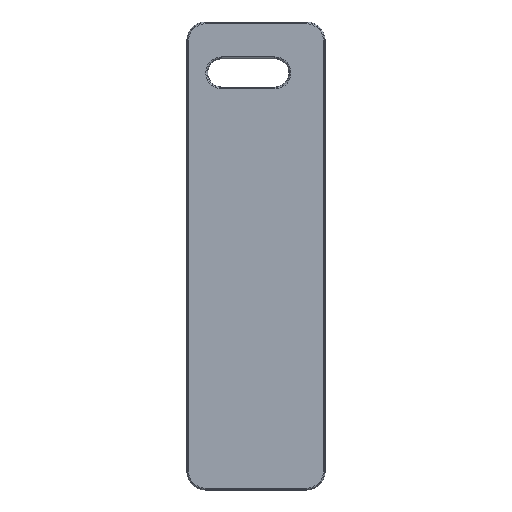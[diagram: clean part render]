
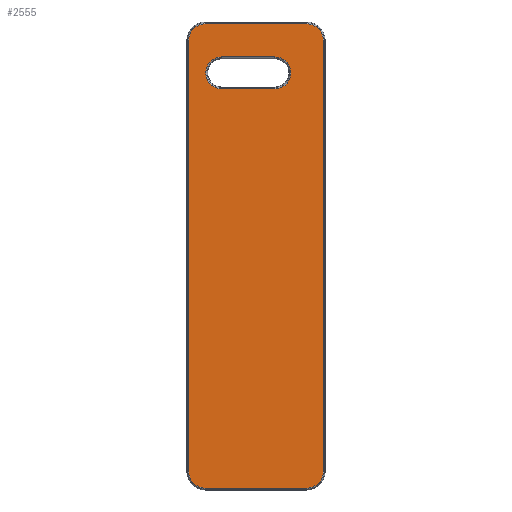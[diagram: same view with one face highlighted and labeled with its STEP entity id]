
A CAD part, top view. The second image highlights one B-rep face of the part: STEP entity #2555.
In plain terms, the highlighted planar face has unit normal (0, 0, 1).
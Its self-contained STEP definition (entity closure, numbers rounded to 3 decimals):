
#170=CARTESIAN_POINT('',(-191.,-812.5,0.));
#171=DIRECTION('',(0.,0.,1.));
#172=DIRECTION('',(-1.,0.,0.));
#173=AXIS2_PLACEMENT_3D('',#170,#171,#172);
#178=DIRECTION('',(0.,-1.,0.));
#179=VECTOR('',#178,1625.);
#180=CARTESIAN_POINT('',(-253.525,812.5,0.));
#181=LINE('',#180,#179);
#185=CARTESIAN_POINT('',(-191.,812.5,0.));
#186=DIRECTION('',(0.,0.,1.));
#187=DIRECTION('',(0.,1.,0.));
#188=AXIS2_PLACEMENT_3D('',#185,#186,#187);
#193=DIRECTION('',(-1.,0.,0.));
#194=VECTOR('',#193,382.);
#195=CARTESIAN_POINT('',(191.,875.025,0.));
#196=LINE('',#195,#194);
#200=CARTESIAN_POINT('',(191.,812.5,0.));
#201=DIRECTION('',(0.,0.,1.));
#202=DIRECTION('',(1.,0.,0.));
#203=AXIS2_PLACEMENT_3D('',#200,#201,#202);
#208=DIRECTION('',(0.,1.,0.));
#209=VECTOR('',#208,1625.);
#210=CARTESIAN_POINT('',(253.525,-812.5,0.));
#211=LINE('',#210,#209);
#215=CARTESIAN_POINT('',(191.,-812.5,0.));
#216=DIRECTION('',(0.,0.,1.));
#217=DIRECTION('',(0.,-1.,0.));
#218=AXIS2_PLACEMENT_3D('',#215,#216,#217);
#223=DIRECTION('',(1.,0.,0.));
#224=VECTOR('',#223,382.);
#225=CARTESIAN_POINT('',(-191.,-875.025,0.));
#226=LINE('',#225,#224);
#230=CARTESIAN_POINT('',(71.,690.005,0.));
#231=DIRECTION('',(0.,0.,-1.));
#232=DIRECTION('',(0.,1.,0.));
#233=AXIS2_PLACEMENT_3D('',#230,#231,#232);
#238=DIRECTION('',(1.,0.,0.));
#239=VECTOR('',#238,200.);
#240=CARTESIAN_POINT('',(-129.,750.115,0.));
#241=LINE('',#240,#239);
#245=CARTESIAN_POINT('',(-129.,690.005,0.));
#246=DIRECTION('',(0.,0.,-1.));
#247=DIRECTION('',(0.,-1.,0.));
#248=AXIS2_PLACEMENT_3D('',#245,#246,#247);
#253=DIRECTION('',(-1.,0.,0.));
#254=VECTOR('',#253,200.);
#255=CARTESIAN_POINT('',(71.,629.895,0.));
#256=LINE('',#255,#254);
#2306=CARTESIAN_POINT('',(-253.525,-812.5,0.));
#2307=CARTESIAN_POINT('',(-191.,-875.025,0.));
#2308=VERTEX_POINT('',#2306);
#2309=VERTEX_POINT('',#2307);
#2314=CARTESIAN_POINT('',(191.,-875.025,0.));
#2315=VERTEX_POINT('',#2314);
#2318=CARTESIAN_POINT('',(253.525,-812.5,0.));
#2319=VERTEX_POINT('',#2318);
#2322=CARTESIAN_POINT('',(253.525,812.5,0.));
#2323=VERTEX_POINT('',#2322);
#2326=CARTESIAN_POINT('',(191.,875.025,0.));
#2327=VERTEX_POINT('',#2326);
#2330=CARTESIAN_POINT('',(-191.,875.025,0.));
#2331=VERTEX_POINT('',#2330);
#2334=CARTESIAN_POINT('',(-253.525,812.5,0.));
#2335=VERTEX_POINT('',#2334);
#2338=CARTESIAN_POINT('',(71.,750.115,0.));
#2339=CARTESIAN_POINT('',(71.,629.895,0.));
#2340=VERTEX_POINT('',#2338);
#2341=VERTEX_POINT('',#2339);
#2346=CARTESIAN_POINT('',(-129.,629.895,0.));
#2347=VERTEX_POINT('',#2346);
#2350=CARTESIAN_POINT('',(-129.,750.115,0.));
#2351=VERTEX_POINT('',#2350);
#2522=CARTESIAN_POINT('',(0.,0.,0.));
#2523=DIRECTION('',(0.,0.,1.));
#2524=DIRECTION('',(1.,0.,0.));
#2525=AXIS2_PLACEMENT_3D('',#2522,#2523,#2524);
#2526=PLANE('',#2525);
#2528=ORIENTED_EDGE('',*,*,#2527,.F.);
#2530=ORIENTED_EDGE('',*,*,#2529,.F.);
#2532=ORIENTED_EDGE('',*,*,#2531,.F.);
#2534=ORIENTED_EDGE('',*,*,#2533,.F.);
#2536=ORIENTED_EDGE('',*,*,#2535,.F.);
#2538=ORIENTED_EDGE('',*,*,#2537,.F.);
#2540=ORIENTED_EDGE('',*,*,#2539,.F.);
#2542=ORIENTED_EDGE('',*,*,#2541,.F.);
#2543=EDGE_LOOP('',(#2528,#2530,#2532,#2534,#2536,#2538,#2540,#2542));
#2544=FACE_OUTER_BOUND('',#2543,.F.);
#2546=ORIENTED_EDGE('',*,*,#2545,.F.);
#2548=ORIENTED_EDGE('',*,*,#2547,.F.);
#2550=ORIENTED_EDGE('',*,*,#2549,.F.);
#2552=ORIENTED_EDGE('',*,*,#2551,.F.);
#2553=EDGE_LOOP('',(#2546,#2548,#2550,#2552));
#2554=FACE_BOUND('',#2553,.F.);
#174=CIRCLE('',#173,62.525);
#189=CIRCLE('',#188,62.525);
#204=CIRCLE('',#203,62.525);
#219=CIRCLE('',#218,62.525);
#234=CIRCLE('',#233,60.11);
#249=CIRCLE('',#248,60.11);
#2527=EDGE_CURVE('',#2308,#2309,#174,.T.);
#2529=EDGE_CURVE('',#2335,#2308,#181,.T.);
#2531=EDGE_CURVE('',#2331,#2335,#189,.T.);
#2533=EDGE_CURVE('',#2327,#2331,#196,.T.);
#2535=EDGE_CURVE('',#2323,#2327,#204,.T.);
#2537=EDGE_CURVE('',#2319,#2323,#211,.T.);
#2539=EDGE_CURVE('',#2315,#2319,#219,.T.);
#2541=EDGE_CURVE('',#2309,#2315,#226,.T.);
#2545=EDGE_CURVE('',#2340,#2341,#234,.T.);
#2547=EDGE_CURVE('',#2351,#2340,#241,.T.);
#2549=EDGE_CURVE('',#2347,#2351,#249,.T.);
#2551=EDGE_CURVE('',#2341,#2347,#256,.T.);
#2555=ADVANCED_FACE('',(#2544,#2554),#2526,.T.);
